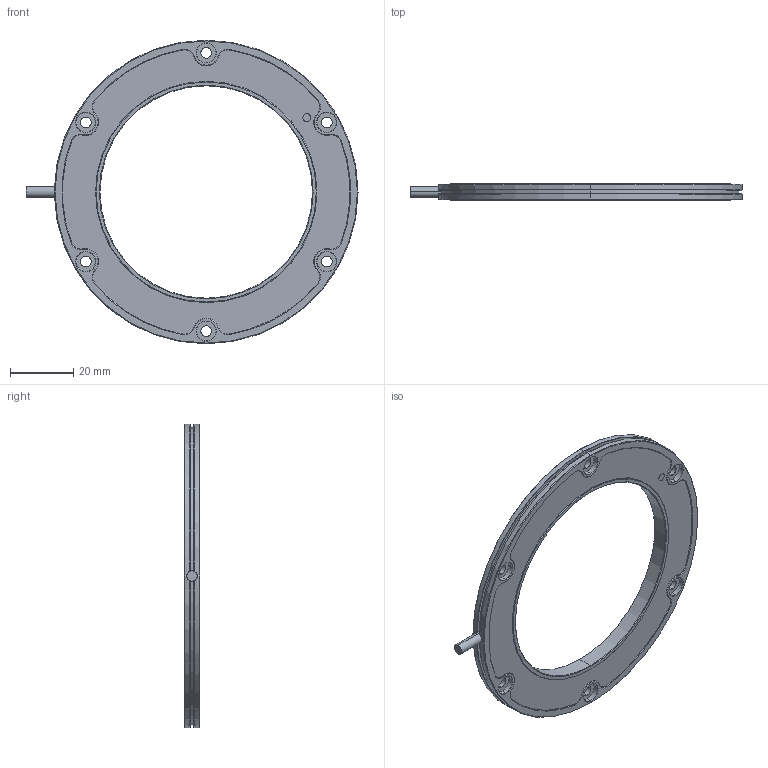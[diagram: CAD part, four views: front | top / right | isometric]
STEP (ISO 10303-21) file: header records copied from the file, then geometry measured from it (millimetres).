
FILE_DESCRIPTION (( 'STEP AP214' ), '1' );
FILE_NAME ('GRS-096-K0x-AL_rev01.STEP', '2023-11-08T09:10:08', ( '' ), ( '' ), 'SwSTEP 2.0', 'SolidWorks 2021', '' );
FILE_SCHEMA (( 'AUTOMOTIVE_DESIGN' ));
Length unit declared in the file: millimetre
Products named in the file (1): GRS-096-K0x-AL_rev01
Bounding box: 105 x 5 x 96 mm (x, y, z)
Volume: 16965.3 mm3; surface area: 19212.2 mm2
Topology: 4 solids, 4 shells, 238 faces, 573 edges, 360 vertices
Faces by surface type: cylinder 134, cone 69, plane 35
Entity records: 9780 total; most frequent: DIRECTION 1387, CARTESIAN_POINT 1218, ORIENTED_EDGE 1146, AXIS2_PLACEMENT_3D 581, EDGE_CURVE 573, VERTEX_POINT 360, CIRCLE 342, EDGE_LOOP 273
